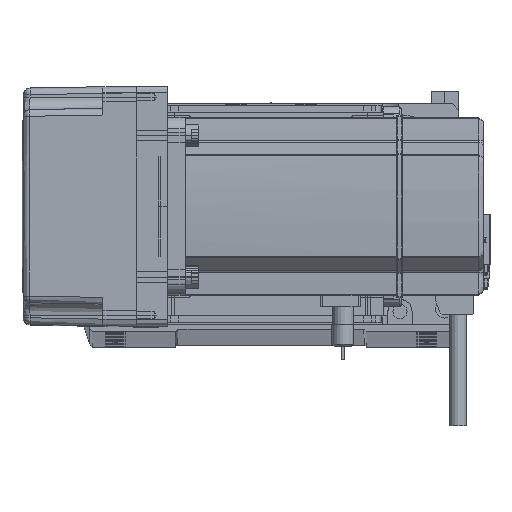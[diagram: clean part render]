
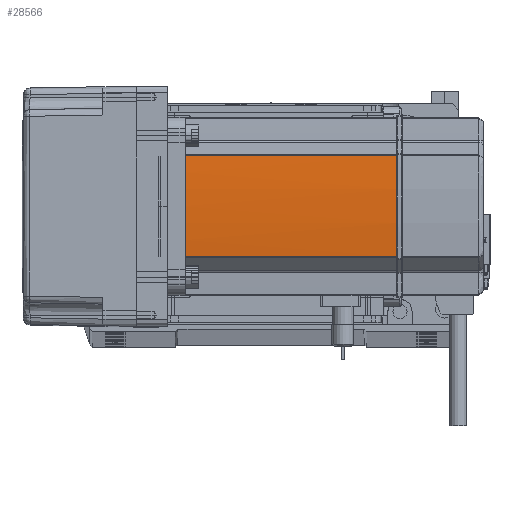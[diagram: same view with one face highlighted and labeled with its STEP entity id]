
A CAD part, top view. The second image highlights one B-rep face of the part: STEP entity #28566.
In plain terms, the highlighted cylindrical face has radius 270 mm (diameter 540 mm), a partial arc.
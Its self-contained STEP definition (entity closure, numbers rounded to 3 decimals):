
#294 = CIRCLE ( 'NONE', #17763, 270. ) ;
#718 = VECTOR ( 'NONE', #5983, 1000. ) ;
#1211 = ORIENTED_EDGE ( 'NONE', *, *, #25064, .T. ) ;
#1245 = CARTESIAN_POINT ( 'NONE',  ( 40., 0.127, 134. ) ) ;
#3502 = CARTESIAN_POINT ( 'NONE',  ( -230., 0., 134. ) ) ;
#5071 = CARTESIAN_POINT ( 'NONE',  ( 40., -0.042, 134. ) ) ;
#5983 = DIRECTION ( 'NONE',  ( 0., 0., -1. ) ) ;
#6717 = B_SPLINE_CURVE_WITH_KNOTS ( 'NONE', 3,
 ( #32697, #5071, #26569, #43538 ),
 .UNSPECIFIED., .F., .F.,
 ( 4, 4 ),
 ( 0., 1. ),
 .UNSPECIFIED. ) ;
#8588 = VERTEX_POINT ( 'NONE', #42250 ) ;
#9093 = AXIS2_PLACEMENT_3D ( 'NONE', #36073, #19751, #25200 ) ;
#9694 = DIRECTION ( 'NONE',  ( 0., 0., -1. ) ) ;
#9865 = CARTESIAN_POINT ( 'NONE',  ( -230., 0., 39. ) ) ;
#9890 = CIRCLE ( 'NONE', #16694, 270. ) ;
#10163 = FACE_OUTER_BOUND ( 'NONE', #37996, .T. ) ;
#13011 = ORIENTED_EDGE ( 'NONE', *, *, #35180, .T. ) ;
#16694 = AXIS2_PLACEMENT_3D ( 'NONE', #9865, #42245, #31186 ) ;
#17262 = CARTESIAN_POINT ( 'NONE',  ( 39.042, -22.724, 134. ) ) ;
#17763 = AXIS2_PLACEMENT_3D ( 'NONE', #3502, #24712, #40528 ) ;
#19751 = DIRECTION ( 'NONE',  ( 0., 0., -1. ) ) ;
#22393 = EDGE_CURVE ( 'NONE', #48176, #38874, #6717, .T. ) ;
#24712 = DIRECTION ( 'NONE',  ( 0., 0., -1. ) ) ;
#25064 = EDGE_CURVE ( 'NONE', #62135, #8588, #25903, .T. ) ;
#25200 = DIRECTION ( 'NONE',  ( -1., 0., 0. ) ) ;
#25903 = LINE ( 'NONE', #44783, #44459 ) ;
#26569 = CARTESIAN_POINT ( 'NONE',  ( 40., 0.042, 134. ) ) ;
#26659 = CARTESIAN_POINT ( 'NONE',  ( 39.042, -22.724, 39. ) ) ;
#28509 = DIRECTION ( 'NONE',  ( 0., 0., 1. ) ) ;
#28566 = ADVANCED_FACE ( 'NONE', ( #10163 ), #57390, .T. ) ;
#29408 = VERTEX_POINT ( 'NONE', #17262 ) ;
#30423 = ORIENTED_EDGE ( 'NONE', *, *, #48478, .T. ) ;
#31136 = LINE ( 'NONE', #38316, #718 ) ;
#31186 = DIRECTION ( 'NONE',  ( -1., 0., 0. ) ) ;
#32697 = CARTESIAN_POINT ( 'NONE',  ( 40., -0.127, 134. ) ) ;
#34872 = VERTEX_POINT ( 'NONE', #26659 ) ;
#35110 = CIRCLE ( 'NONE', #61289, 270. ) ;
#35180 = EDGE_CURVE ( 'NONE', #48176, #29408, #294, .T. ) ;
#35343 = CARTESIAN_POINT ( 'NONE',  ( 40., -0.127, 134. ) ) ;
#36073 = CARTESIAN_POINT ( 'NONE',  ( -230., 0., 58. ) ) ;
#37996 = EDGE_LOOP ( 'NONE', ( #30423, #58138, #1211, #69605, #49281, #13011 ) ) ;
#38316 = CARTESIAN_POINT ( 'NONE',  ( 39.042, -22.724, 58. ) ) ;
#38874 = VERTEX_POINT ( 'NONE', #1245 ) ;
#40528 = DIRECTION ( 'NONE',  ( -1., 0., 0. ) ) ;
#42245 = DIRECTION ( 'NONE',  ( 0., 0., -1. ) ) ;
#42250 = CARTESIAN_POINT ( 'NONE',  ( 39.042, 22.724, 134. ) ) ;
#43538 = CARTESIAN_POINT ( 'NONE',  ( 40., 0.127, 134. ) ) ;
#44459 = VECTOR ( 'NONE', #28509, 1000. ) ;
#44783 = CARTESIAN_POINT ( 'NONE',  ( 39.042, 22.724, 58. ) ) ;
#48176 = VERTEX_POINT ( 'NONE', #35343 ) ;
#48478 = EDGE_CURVE ( 'NONE', #29408, #34872, #31136, .T. ) ;
#49281 = ORIENTED_EDGE ( 'NONE', *, *, #22393, .F. ) ;
#50921 = CARTESIAN_POINT ( 'NONE',  ( 39.042, 22.724, 39. ) ) ;
#51994 = CARTESIAN_POINT ( 'NONE',  ( -230., 0., 134. ) ) ;
#52810 = EDGE_CURVE ( 'NONE', #62135, #34872, #9890, .T. ) ;
#57390 = CYLINDRICAL_SURFACE ( 'NONE', #9093, 270. ) ;
#58138 = ORIENTED_EDGE ( 'NONE', *, *, #52810, .F. ) ;
#61289 = AXIS2_PLACEMENT_3D ( 'NONE', #51994, #9694, #68620 ) ;
#62135 = VERTEX_POINT ( 'NONE', #50921 ) ;
#68620 = DIRECTION ( 'NONE',  ( -1., 0., 0. ) ) ;
#68844 = EDGE_CURVE ( 'NONE', #8588, #38874, #35110, .T. ) ;
#69605 = ORIENTED_EDGE ( 'NONE', *, *, #68844, .T. ) ;
